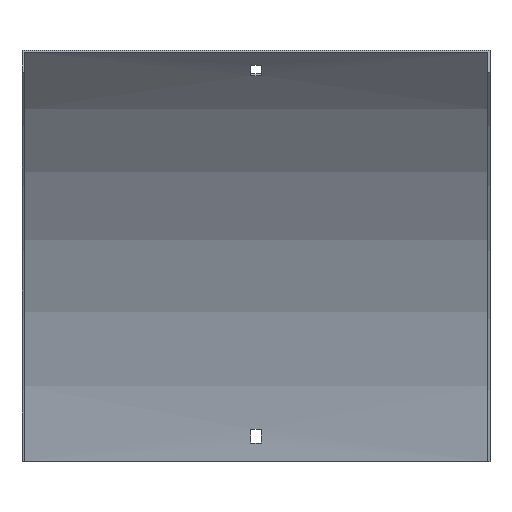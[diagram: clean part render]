
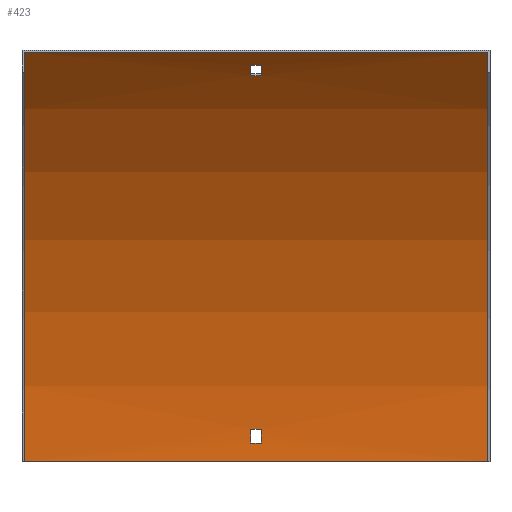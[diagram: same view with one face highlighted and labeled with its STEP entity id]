
A CAD part, front view. The second image highlights one B-rep face of the part: STEP entity #423.
In plain terms, the highlighted cylindrical face has radius 375 mm (diameter 750 mm), a partial arc.
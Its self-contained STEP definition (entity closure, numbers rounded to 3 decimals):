
#3 = EDGE_CURVE ( 'NONE', #576, #119, #459, .T. ) ;
#4 = CARTESIAN_POINT ( 'NONE',  ( 151.5, -102.985, 256.544 ) ) ;
#8 = DIRECTION ( 'NONE',  ( -1., 0., 0. ) ) ;
#9 = VECTOR ( 'NONE', #457, 1000. ) ;
#17 = EDGE_CURVE ( 'NONE', #74, #488, #577, .T. ) ;
#23 = ORIENTED_EDGE ( 'NONE', *, *, #162, .F. ) ;
#28 = ORIENTED_EDGE ( 'NONE', *, *, #480, .T. ) ;
#30 = VECTOR ( 'NONE', #574, 1000. ) ;
#38 = VERTEX_POINT ( 'NONE', #80 ) ;
#52 = CARTESIAN_POINT ( 'NONE',  ( -3.25, -96.902, 249.9 ) ) ;
#67 = FACE_BOUND ( 'NONE', #440, .T. ) ;
#74 = VERTEX_POINT ( 'NONE', #132 ) ;
#80 = CARTESIAN_POINT ( 'NONE',  ( 150., -1.5, 0. ) ) ;
#89 = VERTEX_POINT ( 'NONE', #602 ) ;
#98 = DIRECTION ( 'NONE',  ( 1., 0., 0. ) ) ;
#107 = EDGE_CURVE ( 'NONE', #479, #357, #237, .T. ) ;
#119 = VERTEX_POINT ( 'NONE', #315 ) ;
#126 = VECTOR ( 'NONE', #98, 1000. ) ;
#132 = CARTESIAN_POINT ( 'NONE',  ( 150., -111.335, 265.165 ) ) ;
#133 = ORIENTED_EDGE ( 'NONE', *, *, #3, .T. ) ;
#141 = DIRECTION ( 'NONE',  ( -1., 0., 0. ) ) ;
#145 = CARTESIAN_POINT ( 'NONE',  ( 151.5, -1.692, 12. ) ) ;
#151 = AXIS2_PLACEMENT_3D ( 'NONE', #214, #543, #405 ) ;
#159 = VERTEX_POINT ( 'NONE', #542 ) ;
#160 = CARTESIAN_POINT ( 'NONE',  ( 150., -111.335, 265.165 ) ) ;
#162 = EDGE_CURVE ( 'NONE', #159, #488, #276, .T. ) ;
#178 = LINE ( 'NONE', #145, #126 ) ;
#198 = VECTOR ( 'NONE', #8, 1000. ) ;
#204 = DIRECTION ( 'NONE',  ( -1., 0., 0. ) ) ;
#209 = CARTESIAN_POINT ( 'NONE',  ( 3.25, -2.088, 21. ) ) ;
#214 = CARTESIAN_POINT ( 'NONE',  ( -3.25, -376.5, 0. ) ) ;
#216 = DIRECTION ( 'NONE',  ( 1., 0., 0. ) ) ;
#222 = DIRECTION ( 'NONE',  ( 0., 0., 1. ) ) ;
#227 = EDGE_CURVE ( 'NONE', #38, #74, #442, .T. ) ;
#230 = EDGE_LOOP ( 'NONE', ( #347, #540, #515, #388 ) ) ;
#232 = CARTESIAN_POINT ( 'NONE',  ( 151.5, -2.088, 21. ) ) ;
#237 = CIRCLE ( 'NONE', #587, 375. ) ;
#255 = DIRECTION ( 'NONE',  ( 0., 0., 1. ) ) ;
#257 = ORIENTED_EDGE ( 'NONE', *, *, #526, .T. ) ;
#276 = CIRCLE ( 'NONE', #425, 375. ) ;
#277 = LINE ( 'NONE', #4, #537 ) ;
#279 = AXIS2_PLACEMENT_3D ( 'NONE', #383, #204, #483 ) ;
#284 = CIRCLE ( 'NONE', #506, 375. ) ;
#304 = DIRECTION ( 'NONE',  ( -1., 0., 0. ) ) ;
#306 = VERTEX_POINT ( 'NONE', #328 ) ;
#315 = CARTESIAN_POINT ( 'NONE',  ( 3.25, -96.902, 249.9 ) ) ;
#320 = LINE ( 'NONE', #551, #9 ) ;
#328 = CARTESIAN_POINT ( 'NONE',  ( 3.25, -1.692, 12. ) ) ;
#329 = EDGE_CURVE ( 'NONE', #371, #479, #461, .T. ) ;
#341 = CYLINDRICAL_SURFACE ( 'NONE', #428, 375. ) ;
#345 = CARTESIAN_POINT ( 'NONE',  ( -3.25, -2.088, 21. ) ) ;
#347 = ORIENTED_EDGE ( 'NONE', *, *, #107, .F. ) ;
#349 = EDGE_LOOP ( 'NONE', ( #23, #353, #482, #553 ) ) ;
#353 = ORIENTED_EDGE ( 'NONE', *, *, #600, .F. ) ;
#357 = VERTEX_POINT ( 'NONE', #382 ) ;
#371 = VERTEX_POINT ( 'NONE', #209 ) ;
#372 = DIRECTION ( 'NONE',  ( 0., 0., -1. ) ) ;
#373 = LINE ( 'NONE', #519, #30 ) ;
#382 = CARTESIAN_POINT ( 'NONE',  ( -3.25, -1.692, 12. ) ) ;
#383 = CARTESIAN_POINT ( 'NONE',  ( 3.25, -376.5, 0. ) ) ;
#388 = ORIENTED_EDGE ( 'NONE', *, *, #513, .F. ) ;
#405 = DIRECTION ( 'NONE',  ( 0., 0., -1. ) ) ;
#408 = CARTESIAN_POINT ( 'NONE',  ( 3.25, -102.985, 256.544 ) ) ;
#409 = DIRECTION ( 'NONE',  ( 0., 0., -1. ) ) ;
#413 = CARTESIAN_POINT ( 'NONE',  ( -3.25, -376.5, 0. ) ) ;
#420 = CARTESIAN_POINT ( 'NONE',  ( 150., -376.5, 0. ) ) ;
#423 = ADVANCED_FACE ( 'NONE', ( #443, #528, #67 ), #341, .F. ) ;
#425 = AXIS2_PLACEMENT_3D ( 'NONE', #499, #216, #409 ) ;
#426 = DIRECTION ( 'NONE',  ( 0., 0., -1. ) ) ;
#428 = AXIS2_PLACEMENT_3D ( 'NONE', #434, #304, #255 ) ;
#434 = CARTESIAN_POINT ( 'NONE',  ( 151.5, -376.5, 0. ) ) ;
#436 = VECTOR ( 'NONE', #582, 1000. ) ;
#440 = EDGE_LOOP ( 'NONE', ( #257, #28, #585, #133 ) ) ;
#442 = CIRCLE ( 'NONE', #567, 375. ) ;
#443 = FACE_BOUND ( 'NONE', #230, .T. ) ;
#457 = DIRECTION ( 'NONE',  ( -1., 0., 0. ) ) ;
#459 = CIRCLE ( 'NONE', #279, 375. ) ;
#461 = LINE ( 'NONE', #232, #198 ) ;
#472 = DIRECTION ( 'NONE',  ( 1., 0., 0. ) ) ;
#479 = VERTEX_POINT ( 'NONE', #345 ) ;
#480 = EDGE_CURVE ( 'NONE', #539, #89, #487, .T. ) ;
#482 = ORIENTED_EDGE ( 'NONE', *, *, #227, .T. ) ;
#483 = DIRECTION ( 'NONE',  ( 0., 0., 1. ) ) ;
#487 = CIRCLE ( 'NONE', #151, 375. ) ;
#488 = VERTEX_POINT ( 'NONE', #605 ) ;
#498 = DIRECTION ( 'NONE',  ( 1., 0., 0. ) ) ;
#499 = CARTESIAN_POINT ( 'NONE',  ( -150., -376.5, 0. ) ) ;
#506 = AXIS2_PLACEMENT_3D ( 'NONE', #579, #472, #426 ) ;
#513 = EDGE_CURVE ( 'NONE', #357, #306, #178, .T. ) ;
#515 = ORIENTED_EDGE ( 'NONE', *, *, #578, .F. ) ;
#518 = EDGE_CURVE ( 'NONE', #89, #576, #277, .T. ) ;
#519 = CARTESIAN_POINT ( 'NONE',  ( 150., -1.5, 0. ) ) ;
#526 = EDGE_CURVE ( 'NONE', #119, #539, #320, .T. ) ;
#528 = FACE_OUTER_BOUND ( 'NONE', #349, .T. ) ;
#537 = VECTOR ( 'NONE', #498, 1000. ) ;
#539 = VERTEX_POINT ( 'NONE', #52 ) ;
#540 = ORIENTED_EDGE ( 'NONE', *, *, #329, .F. ) ;
#542 = CARTESIAN_POINT ( 'NONE',  ( -150., -1.5, 0. ) ) ;
#543 = DIRECTION ( 'NONE',  ( 1., 0., 0. ) ) ;
#551 = CARTESIAN_POINT ( 'NONE',  ( 151.5, -96.902, 249.9 ) ) ;
#553 = ORIENTED_EDGE ( 'NONE', *, *, #17, .T. ) ;
#558 = DIRECTION ( 'NONE',  ( 1., 0., 0. ) ) ;
#567 = AXIS2_PLACEMENT_3D ( 'NONE', #420, #558, #372 ) ;
#574 = DIRECTION ( 'NONE',  ( -1., 0., 0. ) ) ;
#576 = VERTEX_POINT ( 'NONE', #408 ) ;
#577 = LINE ( 'NONE', #160, #436 ) ;
#578 = EDGE_CURVE ( 'NONE', #306, #371, #284, .T. ) ;
#579 = CARTESIAN_POINT ( 'NONE',  ( 3.25, -376.5, 0. ) ) ;
#582 = DIRECTION ( 'NONE',  ( -1., 0., 0. ) ) ;
#585 = ORIENTED_EDGE ( 'NONE', *, *, #518, .T. ) ;
#587 = AXIS2_PLACEMENT_3D ( 'NONE', #413, #141, #222 ) ;
#600 = EDGE_CURVE ( 'NONE', #38, #159, #373, .T. ) ;
#602 = CARTESIAN_POINT ( 'NONE',  ( -3.25, -102.985, 256.544 ) ) ;
#605 = CARTESIAN_POINT ( 'NONE',  ( -150., -111.335, 265.165 ) ) ;
